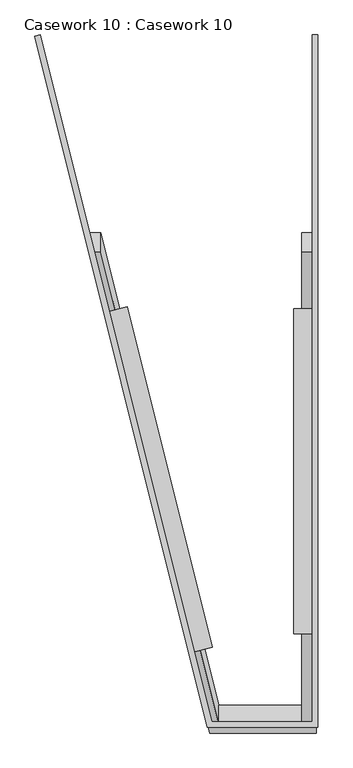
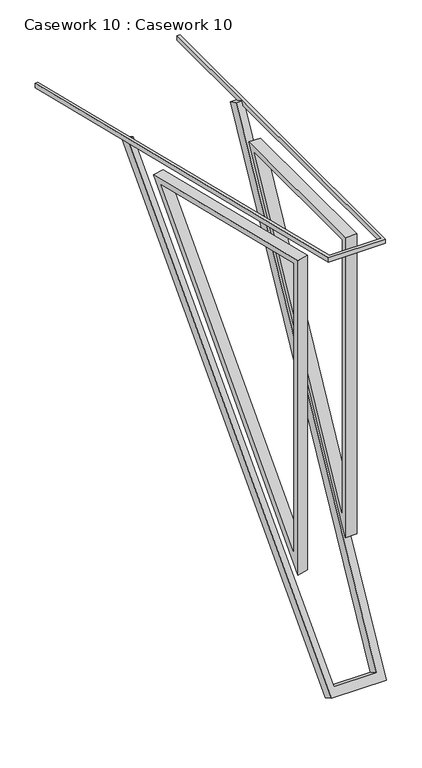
"""IFC4 building model written with IfcOpenShell, lengths in millimetres: furniture geometry, Casework 10 : Casework 10."""

from ifc_helpers import new_model, si_unit, frame, origin, place, context, project, spatial, polyline, outline, extrude, source, transform, mapped, element, save


def casework_10_casework_10_30f343e8(model_context):
    return source(origin(), model_context, "Body", "SweptSolid", [
        extrude(outline(polyline([(4323.9855842, 0.0), (4323.9855842, -64.3), (-272.4949845, -64.3), (-272.4949845, 414.7911668), (4323.9855842, 953.8100048), (4323.9855842, 903.4673856), (-194.8313138, 373.55599), (-194.8313138, 0.0), (4323.9855842, 0.0)])), frame((1810.3252801, -3438.5519052, 5478.7210689), z_axis=(0.0, -0.8824878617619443, 0.47033517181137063), x_axis=(0.0, 0.47033517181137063, 0.8824878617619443)), (0.0, 0.0, 1.0), 100.0),
        extrude(outline(polyline([(-1528.4538407, -50.0), (50.0, 2858.8025615), (50.0, -50.0), (-1528.4538407, -50.0)]), holes=[polyline([(-1444.4341732, 0.0), (0.0, 0.0), (0.0, 2661.8287559), (-1444.4341732, 0.0)])]), frame((1298.8729415, -3244.8903296, 9094.2540131), z_axis=(0.9702957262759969, 0.24192189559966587, 0.0), x_axis=(0.24192189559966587, -0.9702957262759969, 0.0)), (0.0, 0.0, 1.0), 100.0),
        extrude(outline(polyline([(-3209.4389803, 9144.2540131), (-1747.5652405, 9144.2540131), (-3209.4389803, 6367.8152184), (-3209.4389803, 9144.2540131)]), holes=[polyline([(-3159.4389803, 9094.2540131), (-3159.4389803, 6570.0974826), (-1830.399005, 9094.2540131), (-3159.4389803, 9094.2540131)])]), frame((1774.6252801, 0.0, 0.0), z_axis=(1.0, 0.0, 0.0), x_axis=(0.0, 1.0, 0.0)), (0.0, 0.0, 1.0), 100.0),
        extrude(outline(polyline([(609.8360471, -521.1826974), (634.0934402, -515.13465), (1404.5663049, -3605.3325255), (1856.7293504, -3605.3325255), (1856.7293504, -515.13465), (1881.7293504, -515.13465), (1881.7293504, -3630.3325255), (1385.0341643, -3630.3325255), (609.8360471, -521.1826974)])), frame((0.0, 0.0, 9309.2540131), z_axis=(0.0, 0.0, 1.0), x_axis=(1.0, 0.0, 0.0)), (0.0, 0.0, 1.0), 40.0),
    ])


if __name__ == "__main__":
    model = new_model("IFC4")
    model_context = context("Model", 3, world=origin())
    ifc_project = project(units=[si_unit("LENGTHUNIT", "METRE", prefix="MILLI")], contexts=[model_context])
    site = spatial("IfcSite", under=ifc_project)
    building = spatial("IfcBuilding", under=site)
    placement = place(None, origin())
    casework_10_casework_10_shape = casework_10_casework_10_30f343e8(model_context)
    element("IfcFurniture", 1, ObjectType="Casework 10 : Casework 10", at=placement, inside=building, context=model_context, shape_type="MappedRepresentation", body=[
        mapped(casework_10_casework_10_shape, transform((0.0, 0.0, 0.0), x_axis=(1.0, 0.0, 0.0), y_axis=(0.0, 1.0, 0.0), z_axis=(0.0, 0.0, 1.0))),
    ])
    save(model, "model.ifc")
